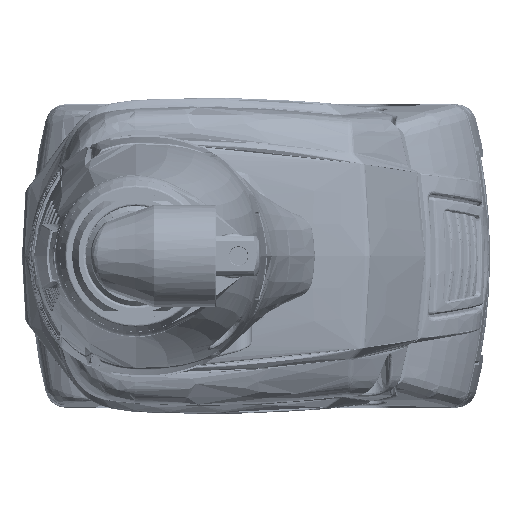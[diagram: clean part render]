
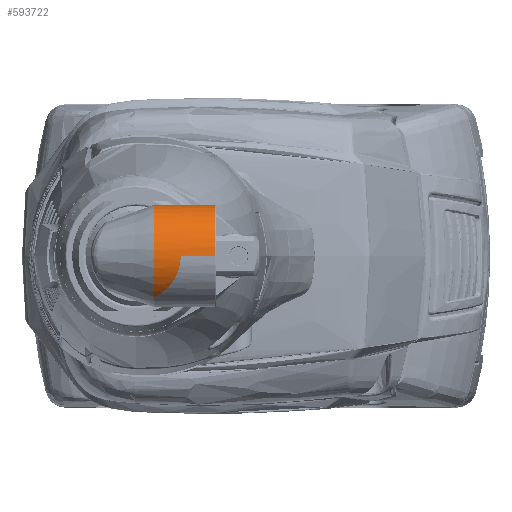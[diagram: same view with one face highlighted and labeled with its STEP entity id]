
A CAD part, left-side view. The second image highlights one B-rep face of the part: STEP entity #593722.
In plain terms, the highlighted cylindrical face has radius 12.5 mm (diameter 25 mm), a partial arc.
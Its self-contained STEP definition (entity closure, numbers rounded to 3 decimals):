
#76754=DIRECTION('',(0.,-1.,0.));
#76755=VECTOR('',#76754,8.3);
#76756=CARTESIAN_POINT('',(-169.48,-11.,0.));
#76757=LINE('',#76756,#76755);
#76769=CARTESIAN_POINT('',(-194.48,-11.,0.));
#76770=CARTESIAN_POINT('',(-194.48,-11.,-0.117));
#76771=CARTESIAN_POINT('',(-194.477,-10.996,
-0.352));
#76772=CARTESIAN_POINT('',(-194.462,-10.979,
-0.704));
#76773=CARTESIAN_POINT('',(-194.437,-10.951,
-1.056));
#76774=CARTESIAN_POINT('',(-194.402,-10.911,
-1.409));
#76775=CARTESIAN_POINT('',(-194.357,-10.86,
-1.762));
#76776=CARTESIAN_POINT('',(-194.302,-10.797,
-2.115));
#76777=CARTESIAN_POINT('',(-194.236,-10.722,
-2.468));
#76778=CARTESIAN_POINT('',(-194.159,-10.634,
-2.822));
#76779=CARTESIAN_POINT('',(-194.072,-10.534,
-3.175));
#76780=CARTESIAN_POINT('',(-193.973,-10.421,
-3.529));
#76781=CARTESIAN_POINT('',(-193.864,-10.294,
-3.883));
#76782=CARTESIAN_POINT('',(-193.742,-10.154,
-4.237));
#76783=CARTESIAN_POINT('',(-193.609,-9.999,
-4.59));
#76784=CARTESIAN_POINT('',(-193.464,-9.83,
-4.942));
#76785=CARTESIAN_POINT('',(-193.306,-9.645,
-5.294));
#76786=CARTESIAN_POINT('',(-193.136,-9.445,
-5.644));
#76787=CARTESIAN_POINT('',(-192.953,-9.228,
-5.991));
#76788=CARTESIAN_POINT('',(-192.757,-8.995,
-6.337));
#76789=CARTESIAN_POINT('',(-192.549,-8.744,
-6.678));
#76790=CARTESIAN_POINT('',(-192.328,-8.476,
-7.016));
#76791=CARTESIAN_POINT('',(-192.095,-8.19,
-7.348));
#76792=CARTESIAN_POINT('',(-191.85,-7.885,
-7.674));
#76793=CARTESIAN_POINT('',(-191.594,-7.562,
-7.992));
#76794=CARTESIAN_POINT('',(-191.328,-7.222,
-8.301));
#76795=CARTESIAN_POINT('',(-191.055,-6.864,
-8.6));
#76796=CARTESIAN_POINT('',(-190.776,-6.491,
-8.885));
#76797=CARTESIAN_POINT('',(-190.494,-6.105,
-9.155));
#76798=CARTESIAN_POINT('',(-190.214,-5.707,
-9.407));
#76799=CARTESIAN_POINT('',(-189.94,-5.306,
-9.64));
#76800=CARTESIAN_POINT('',(-189.677,-4.902,
-9.851));
#76801=CARTESIAN_POINT('',(-189.511,-4.634,
-9.977));
#76802=CARTESIAN_POINT('',(-189.43,-4.5,-10.037));
#76807=DIRECTION('',(0.,-1.,0.));
#76808=VECTOR('',#76807,8.3);
#76809=CARTESIAN_POINT('',(-194.48,-11.,0.));
#76810=LINE('',#76809,#76808);
#76814=CARTESIAN_POINT('',(-181.98,-19.3,0.));
#76815=DIRECTION('',(0.,-1.,0.));
#76816=DIRECTION('',(1.,0.,0.));
#76817=AXIS2_PLACEMENT_3D('',#76814,#76815,#76816);
#76868=CARTESIAN_POINT('',(-181.98,-4.5,0.));
#76869=DIRECTION('',(0.,-1.,0.));
#76870=DIRECTION('',(0.596,0.,0.803));
#76871=AXIS2_PLACEMENT_3D('',#76868,#76869,#76870);
#77150=CARTESIAN_POINT('',(-169.48,-11.,0.));
#77151=CARTESIAN_POINT('',(-169.48,-11.,0.114));
#77152=CARTESIAN_POINT('',(-169.483,-10.996,
0.342));
#77153=CARTESIAN_POINT('',(-169.497,-10.981,
0.683));
#77154=CARTESIAN_POINT('',(-169.521,-10.954,
1.025));
#77155=CARTESIAN_POINT('',(-169.553,-10.917,
1.367));
#77156=CARTESIAN_POINT('',(-169.596,-10.868,
1.709));
#77157=CARTESIAN_POINT('',(-169.648,-10.809,
2.051));
#77158=CARTESIAN_POINT('',(-169.71,-10.738,
2.393));
#77159=CARTESIAN_POINT('',(-169.781,-10.656,
2.736));
#77160=CARTESIAN_POINT('',(-169.863,-10.562,
3.079));
#77161=CARTESIAN_POINT('',(-169.956,-10.456,
3.422));
#77162=CARTESIAN_POINT('',(-170.059,-10.338,
3.765));
#77163=CARTESIAN_POINT('',(-170.172,-10.206,
4.108));
#77164=CARTESIAN_POINT('',(-170.297,-10.062,
4.451));
#77165=CARTESIAN_POINT('',(-170.433,-9.903,
4.793));
#77166=CARTESIAN_POINT('',(-170.581,-9.731,
5.134));
#77167=CARTESIAN_POINT('',(-170.74,-9.544,
5.474));
#77168=CARTESIAN_POINT('',(-170.911,-9.342,
5.812));
#77169=CARTESIAN_POINT('',(-171.094,-9.125,
6.148));
#77170=CARTESIAN_POINT('',(-171.289,-8.891,
6.481));
#77171=CARTESIAN_POINT('',(-171.496,-8.642,
6.81));
#77172=CARTESIAN_POINT('',(-171.714,-8.375,
7.136));
#77173=CARTESIAN_POINT('',(-171.944,-8.092,
7.456));
#77174=CARTESIAN_POINT('',(-172.185,-7.791,
7.769));
#77175=CARTESIAN_POINT('',(-172.436,-7.474,
8.075));
#77176=CARTESIAN_POINT('',(-172.695,-7.14,
8.372));
#77177=CARTESIAN_POINT('',(-172.961,-6.79,
8.658));
#77178=CARTESIAN_POINT('',(-173.232,-6.426,
8.932));
#77179=CARTESIAN_POINT('',(-173.505,-6.05,
9.19));
#77180=CARTESIAN_POINT('',(-173.775,-5.665,
9.432));
#77181=CARTESIAN_POINT('',(-174.039,-5.275,
9.656));
#77182=CARTESIAN_POINT('',(-174.294,-4.885,
9.859));
#77183=CARTESIAN_POINT('',(-174.453,-4.628,
9.98));
#77184=CARTESIAN_POINT('',(-174.53,-4.5,10.037));
#466894=CARTESIAN_POINT('',(-169.48,-11.,0.));
#466895=VERTEX_POINT('',#466894);
#466896=VERTEX_POINT('',#77184);
#466898=VERTEX_POINT('',#76769);
#466899=VERTEX_POINT('',#76802);
#467012=CARTESIAN_POINT('',(-169.48,-19.3,0.));
#467013=CARTESIAN_POINT('',(-194.48,-19.3,0.));
#467014=VERTEX_POINT('',#467012);
#467015=VERTEX_POINT('',#467013);
#593707=CARTESIAN_POINT('',(-181.98,-20.633,0.));
#593708=DIRECTION('',(0.,1.,0.));
#593709=DIRECTION('',(1.,0.,0.));
#593710=AXIS2_PLACEMENT_3D('',#593707,#593708,#593709);
#593711=CYLINDRICAL_SURFACE('',#593710,12.5);
#593712=ORIENTED_EDGE('',*,*,#593632,.T.);
#593713=ORIENTED_EDGE('',*,*,#593690,.F.);
#593714=ORIENTED_EDGE('',*,*,#593688,.T.);
#593716=ORIENTED_EDGE('',*,*,#593715,.F.);
#593718=ORIENTED_EDGE('',*,*,#593717,.F.);
#593719=ORIENTED_EDGE('',*,*,#593682,.T.);
#593720=EDGE_LOOP('',(#593712,#593713,#593714,#593716,#593718,#593719));
#593721=FACE_OUTER_BOUND('',#593720,.F.);
#593722=ADVANCED_FACE('',(#593721),#593711,.T.);
#76803=B_SPLINE_CURVE_WITH_KNOTS('',3,(#76769,#76770,#76771,#76772,#76773,
#76774,#76775,#76776,#76777,#76778,#76779,#76780,#76781,#76782,#76783,#76784,
#76785,#76786,#76787,#76788,#76789,#76790,#76791,#76792,#76793,#76794,#76795,
#76796,#76797,#76798,#76799,#76800,#76801,#76802),.UNSPECIFIED.,.F.,.F.,(4,1,1,
1,1,1,1,1,1,1,1,1,1,1,1,1,1,1,1,1,1,1,1,1,1,1,1,1,1,1,1,4),(0.,
0.032,0.065,0.097,0.129,
0.161,0.194,0.226,0.258,
0.29,0.323,0.355,0.387,
0.419,0.452,0.484,0.516,
0.548,0.581,0.613,0.645,
0.677,0.71,0.742,0.774,
0.806,0.839,0.871,0.903,
0.935,0.968,1.),.UNSPECIFIED.);
#76818=CIRCLE('',#76817,12.5);
#76872=CIRCLE('',#76871,12.5);
#77185=B_SPLINE_CURVE_WITH_KNOTS('',3,(#77150,#77151,#77152,#77153,#77154,
#77155,#77156,#77157,#77158,#77159,#77160,#77161,#77162,#77163,#77164,#77165,
#77166,#77167,#77168,#77169,#77170,#77171,#77172,#77173,#77174,#77175,#77176,
#77177,#77178,#77179,#77180,#77181,#77182,#77183,#77184),.UNSPECIFIED.,.F.,.F.,(
4,1,1,1,1,1,1,1,1,1,1,1,1,1,1,1,1,1,1,1,1,1,1,1,1,1,1,1,1,1,1,1,4),(0.,
0.031,0.063,0.094,0.125,0.156,0.188,0.219,0.25,0.281,
0.313,0.344,0.375,0.406,0.438,0.469,0.5,0.531,
0.563,0.594,0.625,0.656,0.688,0.719,0.75,0.781,
0.813,0.844,0.875,0.906,0.938,0.969,1.),.UNSPECIFIED.);
#593632=EDGE_CURVE('',#467014,#467015,#76818,.T.);
#593682=EDGE_CURVE('',#466895,#467014,#76757,.T.);
#593688=EDGE_CURVE('',#466898,#466899,#76803,.T.);
#593690=EDGE_CURVE('',#466898,#467015,#76810,.T.);
#593715=EDGE_CURVE('',#466896,#466899,#76872,.T.);
#593717=EDGE_CURVE('',#466895,#466896,#77185,.T.);
